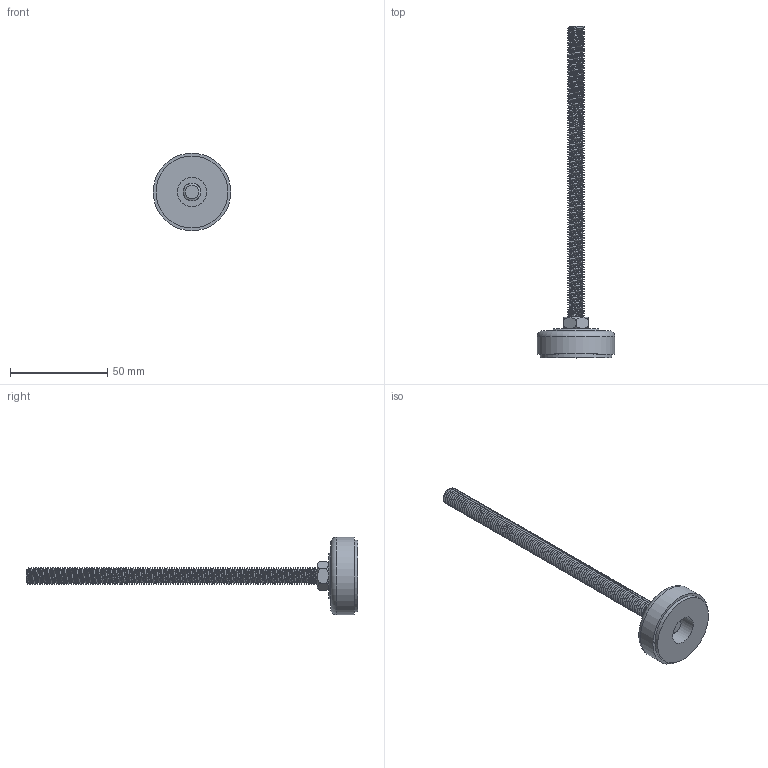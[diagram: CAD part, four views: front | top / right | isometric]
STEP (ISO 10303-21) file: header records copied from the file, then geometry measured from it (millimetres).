
FILE_DESCRIPTION(/* description */ (''),/* implementation_level */ '2;1');
FILE_NAME(/* name */ 'D:\硯聰\加工圖\01.\X2\66AB5B58\X0\\GF-10170F.step',/* time_stamp */ '2021-07-08T09:54:26+08:00',/* author */ ('Owner'),/* organization */ (''),/* preprocessor_version */ 'ST-DEVELOPER v16.1',/* originating_system */ 'Autodesk Inventor 2016',/* authorisation */ '');
FILE_SCHEMA (('AUTOMOTIVE_DESIGN { 1 0 10303 214 3 1 1 }'));
Length unit declared in the file: millimetre
Products named in the file (3): 底座BS40; 螺桿M10XL150XP1.5; GF-10170F
Assembly tree (2 placements, depth 2):
  GF-10170F
    底座BS40
    螺桿M10XL150XP1.5
Bounding box: 40 x 171 x 40 mm (x, y, z)
Volume: 22876.2 mm3; surface area: 13282.9 mm2
Topology: 2 solids, 2 shells, 159 faces, 449 edges, 299 vertices
Faces by surface type: cylinder 131, plane 18, bspline 6, torus 3, cone 1
Full cylindrical faces by diameter (mm): 7 x126, 8 x1, 15 x1, 37 x1, 40 x1
Entity records: 16877 total; most frequent: CARTESIAN_POINT 16176, ORIENTED_EDGE 122, DIRECTION 120, EDGE_CURVE 61, AXIS2_PLACEMENT_3D 53, EDGE_LOOP 52, VERTEX_POINT 47, FACE_OUTER_BOUND 34
